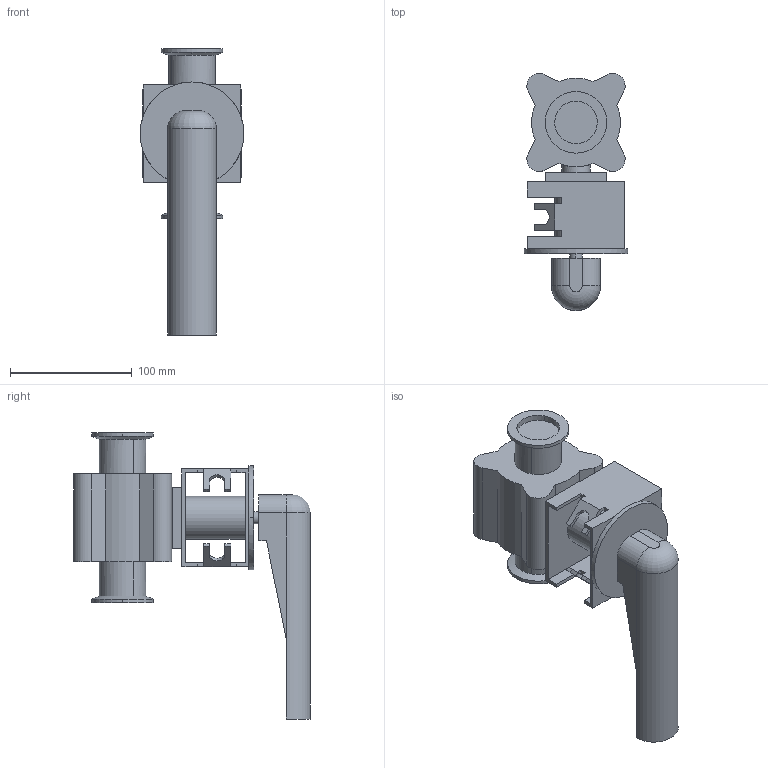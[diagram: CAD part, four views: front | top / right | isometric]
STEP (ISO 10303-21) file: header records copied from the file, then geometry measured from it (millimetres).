
FILE_DESCRIPTION(('Creo Elements/Direct Modeling STEP Export'),'2;1');
FILE_NAME('BLV1-1.5T-HL-12CL.stp','2019-05-10T 7:59:14',(''),(''),'Creo Elements/Direct Modeling STEP processor for AP214 (Solid Model)','Creo Elements/Direct Modeling 19.0F 14-Feb-2017 (C) Parametric Technology GmbH','');
FILE_SCHEMA(('AUTOMOTIVE_DESIGN { 1 0 10303 214 1 1 1 1 }'));
Length unit declared in the file: millimetre
Products named in the file (2): BLV1-1.5T-HL-12CL
Assembly tree (1 placements, depth 2):
  BLV1-1.5T-HL-12CL
    BLV1-1.5T-HL-12CL
Bounding box: 85 x 194.24 x 234.5 mm (x, y, z)
Volume: 789086.4 mm3; surface area: 117543.9 mm2
Topology: 1 solids, 1 shells, 108 faces, 283 edges, 185 vertices
Faces by surface type: plane 70, cylinder 33, cone 4, torus 1
Entity records: 3192 total; most frequent: CARTESIAN_POINT 596, ORIENTED_EDGE 566, DIRECTION 489, EDGE_CURVE 283, VECTOR 191, LINE 191, VERTEX_POINT 185, AXIS2_PLACEMENT_3D 149
